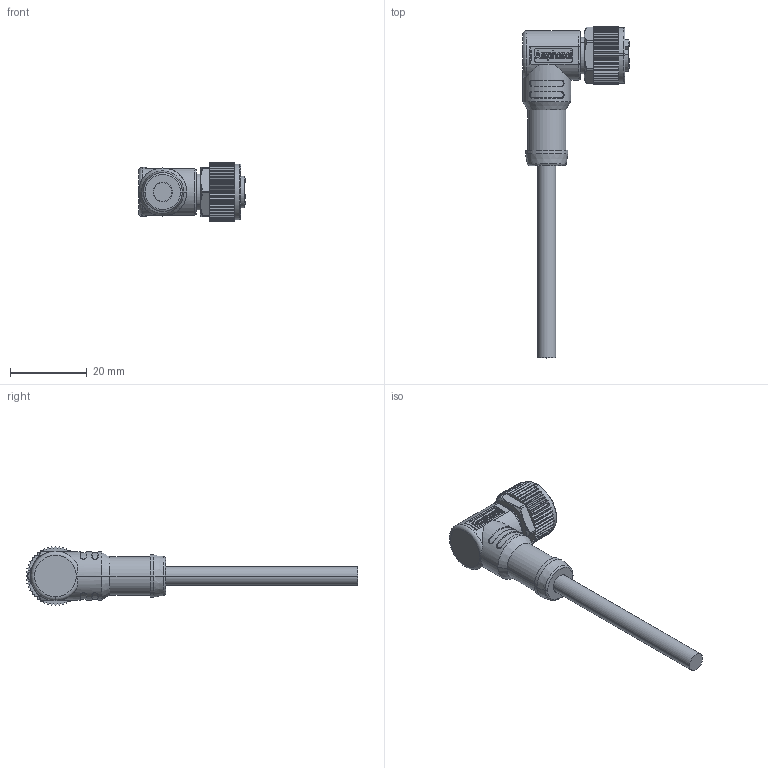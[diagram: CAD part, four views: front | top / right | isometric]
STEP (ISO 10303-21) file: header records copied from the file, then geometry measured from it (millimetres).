
FILE_DESCRIPTION((''),'2;1');
FILE_NAME('M12D-04BFFM-SR8EXX','2021-03-18T',('L170024'),(''),'PRO/ENGINEER BY PARAMETRIC TECHNOLOGY CORPORATION, 2017170','PRO/ENGINEER BY PARAMETRIC TECHNOLOGY CORPORATION, 2017170','');
FILE_SCHEMA(('CONFIG_CONTROL_DESIGN'));
Products named in the file (1): M12D-04BFFM-SR8EXX
Bounding box: 27.7 x 86.25 x 15.3 mm (x, y, z)
Volume: 6388.2 mm3; surface area: 4897.8 mm2
Topology: 1 solids, 1 shells, 984 faces, 2587 edges, 1657 vertices
Faces by surface type: plane 478, cylinder 209, bspline 152, extrusion 62, torus 41, cone 30, sphere 12
Entity records: 72306 total; most frequent: CARTESIAN_POINT 41978, ORIENTED_EDGE 5174, DIRECTION 4251, EDGE_CURVE 2587, VERTEX_POINT 1657, VECTOR 1467, LINE 1405, AXIS2_PLACEMENT_3D 1392
